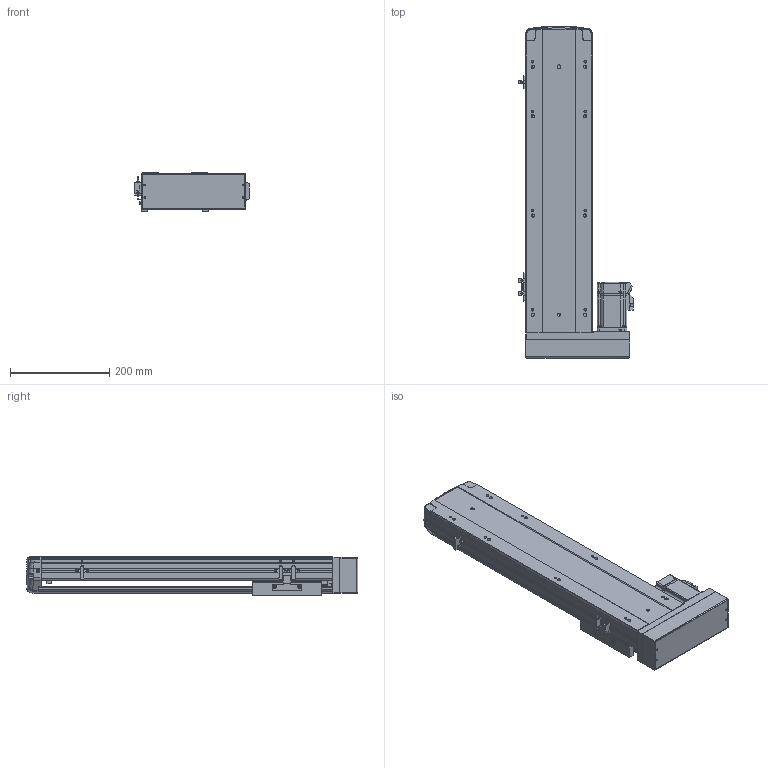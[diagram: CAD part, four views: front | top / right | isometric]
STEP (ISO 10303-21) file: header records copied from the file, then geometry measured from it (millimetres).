
FILE_DESCRIPTION (( 'STEP AP203' ), '1' );
FILE_NAME ('40.STEP', '2022-07-01T09:27:48', ( '' ), ( '' ), 'SwSTEP 2.0', 'SolidWorks 2016', '' );
FILE_SCHEMA (( 'CONFIG_CONTROL_DESIGN' ));
Length unit declared in the file: millimetre
Products named in the file (9): BTH14-BR-P20; BTH14-BR-01; BTH14-BL-BM-BR-菁釱; BTH14-BR-04; BTH14-BR-HZ; 40; BTH14-06-BR-T40(1)-1; BTH14-11-BL-1; 蚾饜极2-BR
Assembly tree (10 placements, depth 3):
  40
    BTH14-BL-BM-BR-菁釱
    BTH14-BR-01
    BTH14-BR-04  x3
    BTH14-BR-HZ
    BTH14-BR-P20
    蚾饜极2-BR
      BTH14-06-BR-T40(1)-1
      BTH14-11-BL-1
Bounding box: 231.15 x 669.21 x 78 mm (x, y, z)
Volume: 3152478.2 mm3; surface area: 758392.2 mm2
Topology: 13 solids, 13 shells, 1801 faces, 4876 edges, 3146 vertices
Faces by surface type: plane 963, cylinder 506, bspline 175, cone 106, torus 51
Entity records: 61251 total; most frequent: CARTESIAN_POINT 21113, ORIENTED_EDGE 8588, DIRECTION 7583, EDGE_CURVE 4294, VERTEX_POINT 2786, AXIS2_PLACEMENT_3D 2568, VECTOR 2447, LINE 2447
